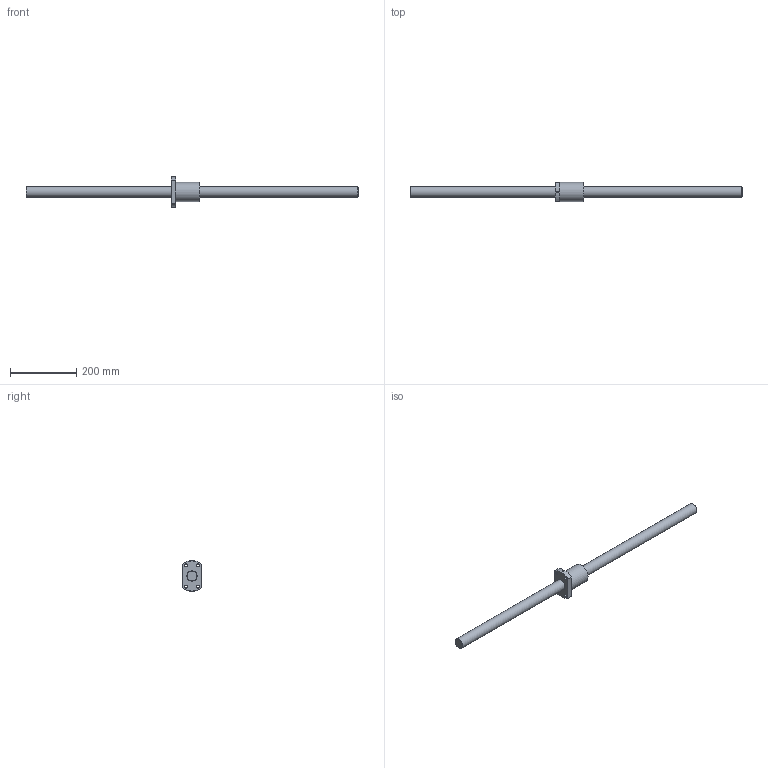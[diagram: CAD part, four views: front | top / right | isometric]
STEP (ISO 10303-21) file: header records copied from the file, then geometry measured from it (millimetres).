
FILE_DESCRIPTION((''),'2;1');
FILE_NAME('D:\製品 (図面)\カタログ用3D\ネジ関連\STEP形式\RBSDA\RBSDA3232-1000.stp','2010-06-02T14:40:47',('Tsuchiya'),(''),'Autodesk Inventor 10','Autodesk Inventor 10','');
FILE_SCHEMA(('AUTOMOTIVE_DESIGN { 1 0 10303 214 1 1 1 1 }'));
Length unit declared in the file: millimetre
Products named in the file (3): RBSDA3232-1000; RBSDA3232-10001; RBSDA3232-10002
Assembly tree (2 placements, depth 2):
  RBSDA3232-1000
    RBSDA3232-10001
    RBSDA3232-10002
Bounding box: 1000 x 58 x 92 mm (x, y, z)
Volume: 992496.2 mm3; surface area: 137419.3 mm2
Topology: 2 solids, 2 shells, 25 faces, 63 edges, 42 vertices
Faces by surface type: cylinder 9, plane 8, cone 7, bspline 1
Full cylindrical faces by diameter (mm): 9 x4, 32 x2, 58 x1
Entity records: 888 total; most frequent: CARTESIAN_POINT 273, DIRECTION 120, ORIENTED_EDGE 94, AXIS2_PLACEMENT_3D 55, EDGE_LOOP 48, EDGE_CURVE 47, VERTEX_POINT 37, CIRCLE 26
